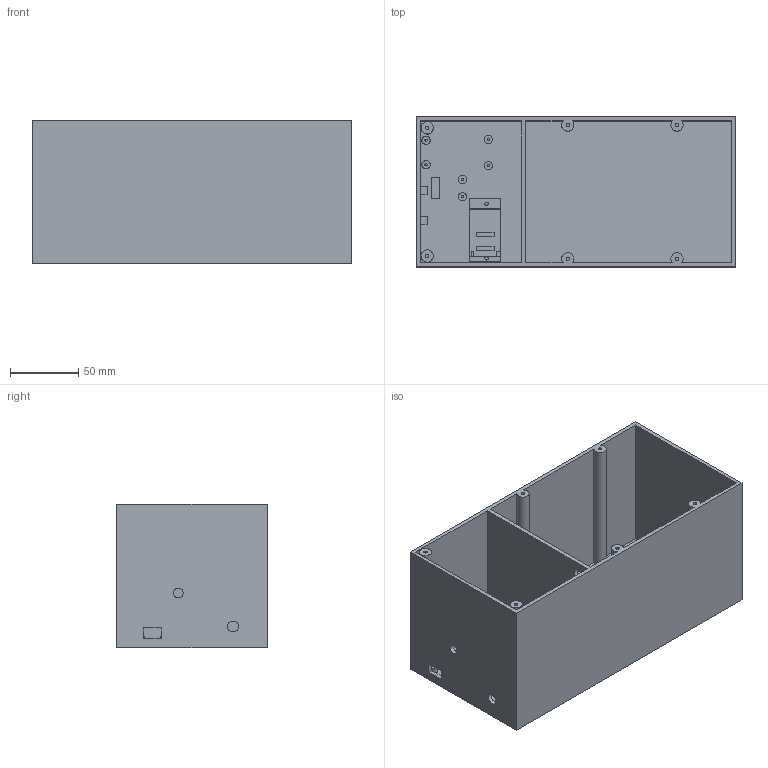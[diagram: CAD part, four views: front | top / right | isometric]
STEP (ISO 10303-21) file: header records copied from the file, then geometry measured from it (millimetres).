
FILE_DESCRIPTION(('Open CASCADE Model'),'2;1');
FILE_NAME('Open CASCADE Shape Model','2026-07-25T17:37:03',('Author'),( 'Open CASCADE'),'Open CASCADE STEP processor 7.9','build123d', 'Unknown');
FILE_SCHEMA(('AUTOMOTIVE_DESIGN { 1 0 10303 214 1 1 1 1 }'));
Products named in the file (1): COMPOUND
Bounding box: 234 x 110 x 105 mm (x, y, z)
Volume: 361829.8 mm3; surface area: 228648.8 mm2
Topology: 1 solids, 1 shells, 679 faces, 1807 edges, 1204 vertices
Faces by surface type: extrusion 359, plane 291, cylinder 29
Full cylindrical faces by diameter (mm): 1.7 x6, 2.5 x8, 6 x6, 7 x1, 8 x2, 9 x2
Entity records: 51005 total; most frequent: CARTESIAN_POINT 18464, DIRECTION 4293, ORIENTED_EDGE 3614, PCURVE 3614, DEFINITIONAL_REPRESENTATION 3614, VECTOR 3469, LINE 3110, B_SPLINE_CURVE_WITH_KNOTS 2546
